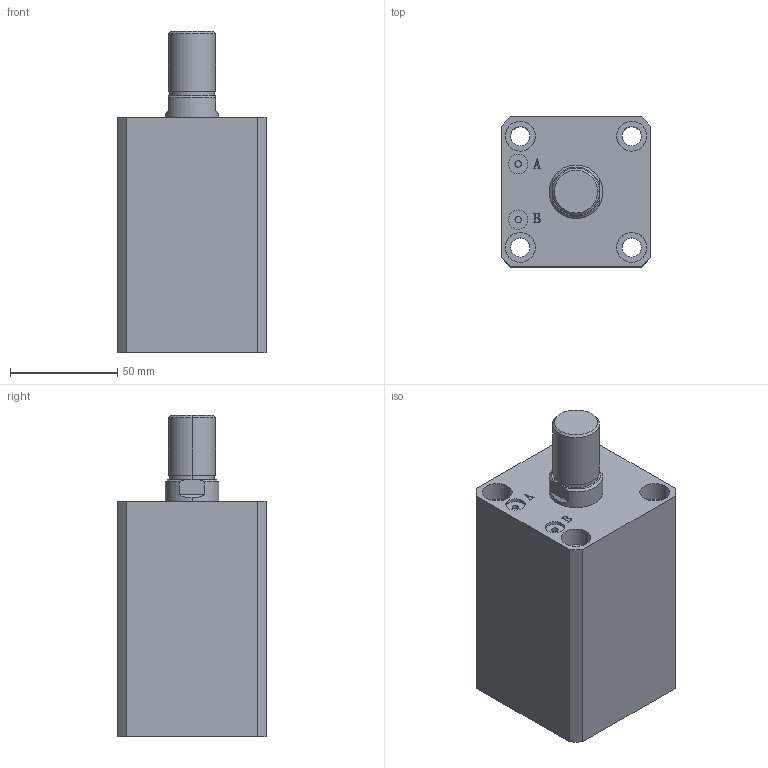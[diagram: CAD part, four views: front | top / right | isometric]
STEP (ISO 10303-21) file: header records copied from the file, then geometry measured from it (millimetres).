
FILE_DESCRIPTION (( 'STEP AP203' ), '1' );
FILE_NAME ('HTB-SDMA40-55W.STEP', '2019-10-07T11:54:31', ( '微软用户' ), ( '微软中国' ), 'SwSTEP 2.0', 'SolidWorks 2012', '' );
FILE_SCHEMA (( 'CONFIG_CONTROL_DESIGN' ));
Length unit declared in the file: millimetre
Products named in the file (3): HTB-SDMA40-55W; HTB-SDMA40-55W活塞杆; HTB-SDMA40-55掛极
Assembly tree (2 placements, depth 2):
  HTB-SDMA40-55W
    HTB-SDMA40-55掛极
    HTB-SDMA40-55W活塞杆
Bounding box: 70 x 70 x 150 mm (x, y, z)
Volume: 473877.8 mm3; surface area: 79717.8 mm2
Topology: 2 solids, 2 shells, 141 faces, 337 edges, 222 vertices
Faces by surface type: plane 67, cylinder 48, bspline 16, torus 6, cone 4
Entity records: 5180 total; most frequent: CARTESIAN_POINT 1597, ORIENTED_EDGE 674, DIRECTION 669, EDGE_CURVE 337, AXIS2_PLACEMENT_3D 242, VERTEX_POINT 222, LINE 185, VECTOR 185
